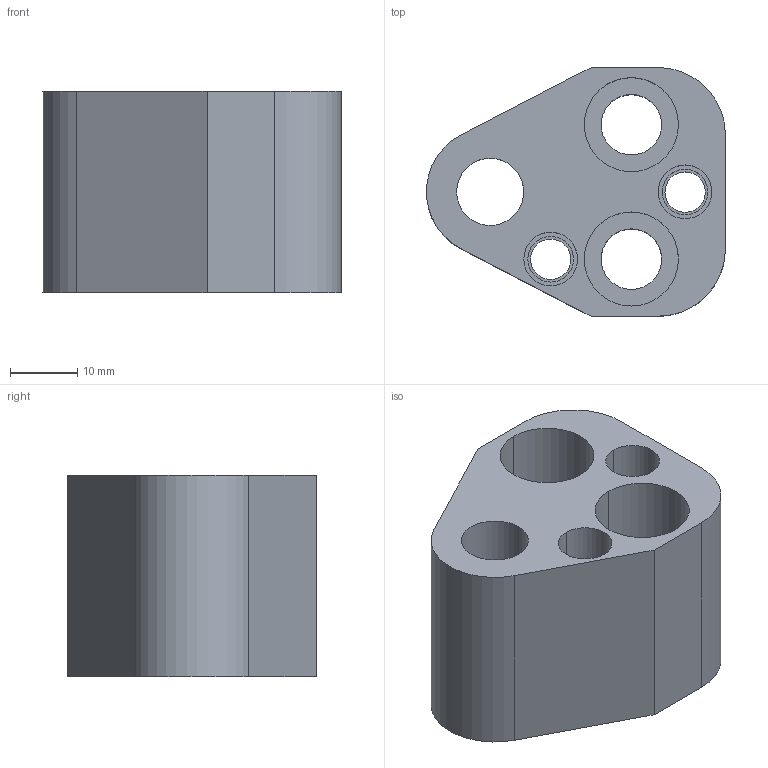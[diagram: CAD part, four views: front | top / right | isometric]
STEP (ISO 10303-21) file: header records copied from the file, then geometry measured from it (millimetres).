
FILE_DESCRIPTION(/* description */ (''),/* implementation_level */ '2;1');
FILE_NAME(/* name */ '3d_fp-an10_03760_r00.stp',/* time_stamp */ '2011-01-10T14:15:37+09:00',/* author */ ('MISUMI'),/* organization */ (''),/* preprocessor_version */ 'ST-DEVELOPER v11',/* originating_system */ 'UGS - NX 5.0',/* authorisation */ '');
FILE_SCHEMA (('CONFIG_CONTROL_DESIGN'));
Length unit declared in the file: millimetre
Products named in the file (1): 3d_fp-an10_03760_r00
Bounding box: 44.47 x 37 x 30 mm (x, y, z)
Volume: 27081 mm3; surface area: 10432.9 mm2
Topology: 1 solids, 1 shells, 43 faces, 100 edges, 66 vertices
Faces by surface type: cylinder 27, plane 14, cone 2
Entity records: 1360 total; most frequent: DIRECTION 244, CARTESIAN_POINT 210, ORIENTED_EDGE 200, EDGE_CURVE 100, AXIS2_PLACEMENT_3D 100, VERTEX_POINT 66, EDGE_LOOP 60, CIRCLE 56
